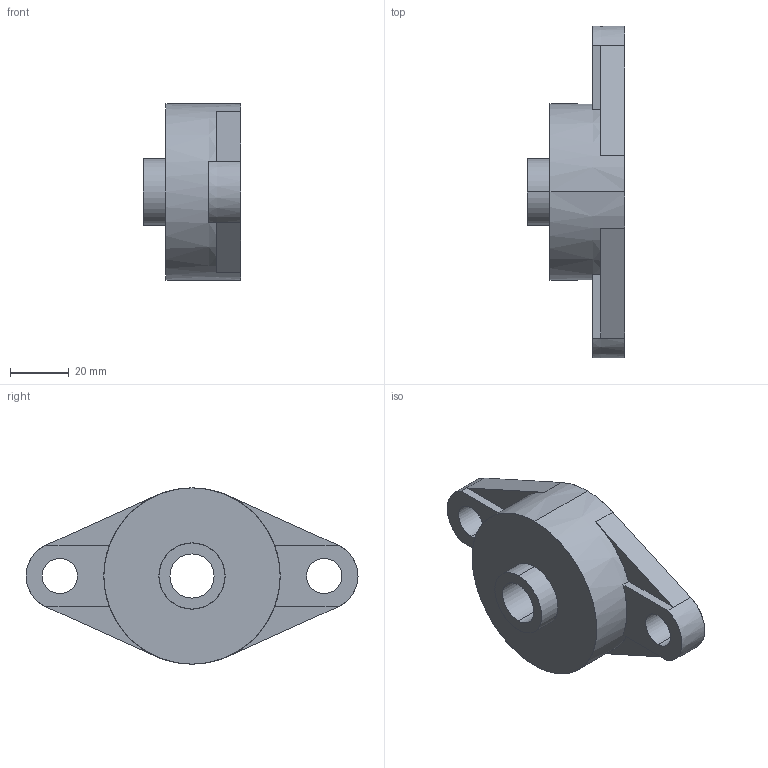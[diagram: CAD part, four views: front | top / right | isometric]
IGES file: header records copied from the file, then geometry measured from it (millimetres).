
Start section: SolidWorks IGES file using analytic representation for surfaces
Global section: file name: C:\Users\Honza\Desktop\Matis\Ložisková tìlesa\UCFL\UCFL 202.IGS; native system: SolidWorks 2010; preprocessor: SolidWorks 2010; author: Honza; date: 130920.101327; units: millimetre
Bounding box: 33.3 x 113 x 60 mm (x, y, z)
Surface area: 16810.9 mm2 (no closed solid volume)
Topology: 0 solids, 0 shells, 29 faces, 572 edges, 572 vertices
Faces by surface type: bspline 17, revolution 12
